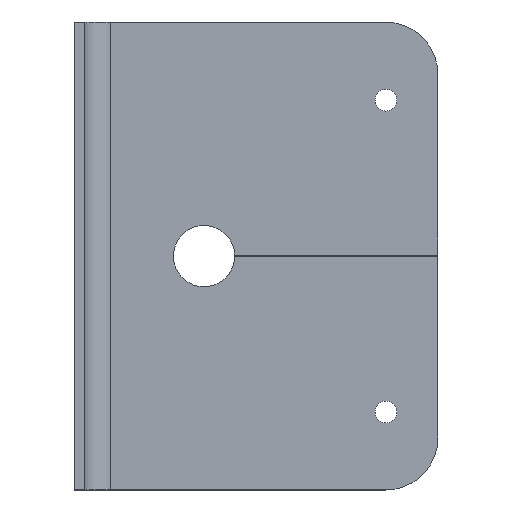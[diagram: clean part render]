
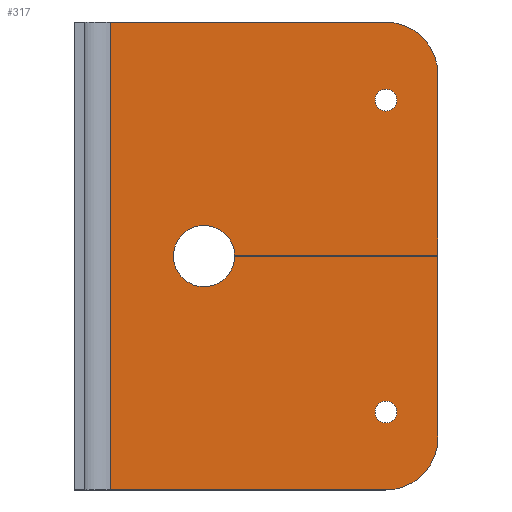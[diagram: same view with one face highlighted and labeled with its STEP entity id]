
A CAD part, top view. The second image highlights one B-rep face of the part: STEP entity #317.
In plain terms, the highlighted planar face has unit normal (0, 0, 1).
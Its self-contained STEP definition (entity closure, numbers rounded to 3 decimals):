
#21=FACE_BOUND('',#43,.T.);
#22=FACE_BOUND('',#44,.T.);
#25=FACE_OUTER_BOUND('',#42,.T.);
#42=EDGE_LOOP('',(#216,#217,#218,#219,#220,#221,#222,#223,#224,#225));
#43=EDGE_LOOP('',(#226));
#44=EDGE_LOOP('',(#227));
#63=CIRCLE('',#349,5.9);
#64=CIRCLE('',#350,10.);
#65=CIRCLE('',#351,10.);
#66=CIRCLE('',#352,2.1);
#67=CIRCLE('',#353,2.1);
#75=LINE('',#474,#108);
#76=LINE('',#478,#109);
#77=LINE('',#480,#110);
#78=LINE('',#484,#111);
#79=LINE('',#486,#112);
#80=LINE('',#488,#113);
#81=LINE('',#491,#114);
#108=VECTOR('',#381,10.);
#109=VECTOR('',#384,10.);
#110=VECTOR('',#385,10.);
#111=VECTOR('',#388,10.);
#112=VECTOR('',#389,10.);
#113=VECTOR('',#390,10.);
#114=VECTOR('',#393,10.);
#141=VERTEX_POINT('',#472);
#142=VERTEX_POINT('',#473);
#143=VERTEX_POINT('',#475);
#144=VERTEX_POINT('',#477);
#145=VERTEX_POINT('',#479);
#146=VERTEX_POINT('',#481);
#147=VERTEX_POINT('',#483);
#148=VERTEX_POINT('',#485);
#149=VERTEX_POINT('',#487);
#150=VERTEX_POINT('',#489);
#151=VERTEX_POINT('',#492);
#152=VERTEX_POINT('',#494);
#171=EDGE_CURVE('',#141,#142,#75,.T.);
#172=EDGE_CURVE('',#142,#143,#63,.T.);
#173=EDGE_CURVE('',#143,#144,#76,.T.);
#174=EDGE_CURVE('',#144,#145,#77,.T.);
#175=EDGE_CURVE('',#146,#145,#64,.T.);
#176=EDGE_CURVE('',#146,#147,#78,.T.);
#177=EDGE_CURVE('',#148,#147,#79,.T.);
#178=EDGE_CURVE('',#148,#149,#80,.T.);
#179=EDGE_CURVE('',#150,#149,#65,.T.);
#180=EDGE_CURVE('',#150,#141,#81,.T.);
#181=EDGE_CURVE('',#151,#151,#66,.T.);
#182=EDGE_CURVE('',#152,#152,#67,.T.);
#216=ORIENTED_EDGE('',*,*,#171,.T.);
#217=ORIENTED_EDGE('',*,*,#172,.T.);
#218=ORIENTED_EDGE('',*,*,#173,.T.);
#219=ORIENTED_EDGE('',*,*,#174,.T.);
#220=ORIENTED_EDGE('',*,*,#175,.F.);
#221=ORIENTED_EDGE('',*,*,#176,.T.);
#222=ORIENTED_EDGE('',*,*,#177,.F.);
#223=ORIENTED_EDGE('',*,*,#178,.T.);
#224=ORIENTED_EDGE('',*,*,#179,.F.);
#225=ORIENTED_EDGE('',*,*,#180,.T.);
#226=ORIENTED_EDGE('',*,*,#181,.T.);
#227=ORIENTED_EDGE('',*,*,#182,.T.);
#306=PLANE('',#348);
#317=ADVANCED_FACE('',(#25,#21,#22),#306,.T.);
#348=AXIS2_PLACEMENT_3D('',#471,#379,#380);
#349=AXIS2_PLACEMENT_3D('',#476,#382,#383);
#350=AXIS2_PLACEMENT_3D('',#482,#386,#387);
#351=AXIS2_PLACEMENT_3D('',#490,#391,#392);
#352=AXIS2_PLACEMENT_3D('',#493,#394,#395);
#353=AXIS2_PLACEMENT_3D('',#495,#396,#397);
#379=DIRECTION('center_axis',(0.,0.,1.));
#380=DIRECTION('ref_axis',(1.,0.,0.));
#381=DIRECTION('',(-1.,0.,0.));
#382=DIRECTION('center_axis',(0.,0.,-1.));
#383=DIRECTION('ref_axis',(1.,0.,0.));
#384=DIRECTION('',(1.,0.,0.));
#385=DIRECTION('',(0.,1.,0.));
#386=DIRECTION('center_axis',(0.,0.,-1.));
#387=DIRECTION('ref_axis',(0.707,0.707,0.));
#388=DIRECTION('',(-1.,0.,0.));
#389=DIRECTION('',(0.,1.,0.));
#390=DIRECTION('',(1.,0.,0.));
#391=DIRECTION('center_axis',(0.,0.,-1.));
#392=DIRECTION('ref_axis',(0.707,-0.707,0.));
#393=DIRECTION('',(0.,1.,0.));
#394=DIRECTION('center_axis',(0.,0.,-1.));
#395=DIRECTION('ref_axis',(1.,0.,0.));
#396=DIRECTION('center_axis',(0.,0.,-1.));
#397=DIRECTION('ref_axis',(1.,0.,0.));
#471=CARTESIAN_POINT('Origin',(35.,45.,2.));
#472=CARTESIAN_POINT('',(70.,45.,2.));
#473=CARTESIAN_POINT('',(30.9,45.,2.));
#474=CARTESIAN_POINT('',(32.95,45.,2.));
#475=CARTESIAN_POINT('',(30.897,45.2,2.));
#476=CARTESIAN_POINT('Origin',(25.,45.,2.));
#477=CARTESIAN_POINT('',(70.,45.2,2.));
#478=CARTESIAN_POINT('',(52.5,45.2,2.));
#479=CARTESIAN_POINT('',(70.,80.,2.));
#480=CARTESIAN_POINT('',(70.,0.,2.));
#481=CARTESIAN_POINT('',(60.,90.,2.));
#482=CARTESIAN_POINT('Origin',(60.,80.,2.));
#483=CARTESIAN_POINT('',(7.,90.,2.));
#484=CARTESIAN_POINT('',(70.,90.,2.));
#485=CARTESIAN_POINT('',(7.,0.,2.));
#486=CARTESIAN_POINT('',(7.,22.5,2.));
#487=CARTESIAN_POINT('',(60.,0.,2.));
#488=CARTESIAN_POINT('',(0.,0.,2.));
#489=CARTESIAN_POINT('',(70.,10.,2.));
#490=CARTESIAN_POINT('Origin',(60.,10.,2.));
#491=CARTESIAN_POINT('',(70.,0.,2.));
#492=CARTESIAN_POINT('',(57.9,15.,2.));
#493=CARTESIAN_POINT('Origin',(60.,15.,2.));
#494=CARTESIAN_POINT('',(57.9,75.,2.));
#495=CARTESIAN_POINT('Origin',(60.,75.,2.));
